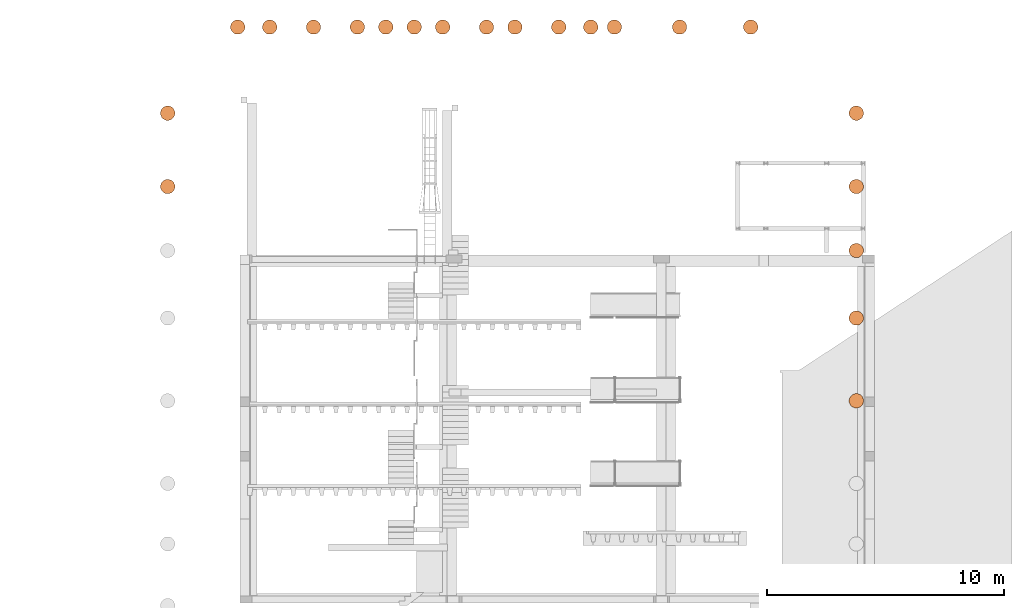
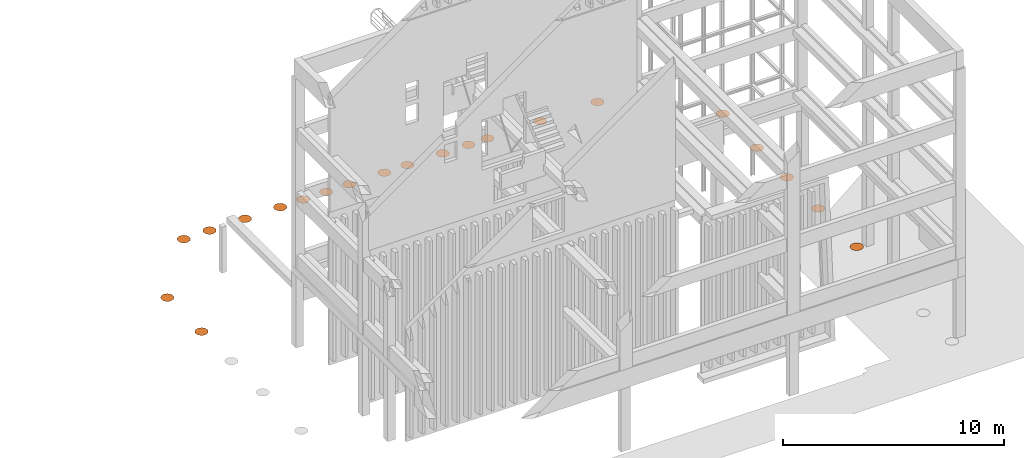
# One storey, part 15 of 15: 21 proxies.
"""IFC2X3 building model written with IfcOpenShell, lengths in metres."""

from ifc_helpers import new_model, entity, si_unit, converted_unit, derived_unit, money_unit, direction, origin_with_axes, place, context, subcontext, project, spatial, open_shell, surface_model, element, save


model = new_model("IFC2X3")

# Units and contexts
model_context = context("Model", 3, precision=1e-05, world=origin_with_axes(), true_north=direction((0.0, 1.0)))
body_context = subcontext(model_context, "Body", "Model", "MODEL_VIEW", scale=1.0)
ifc_project = project(units=[si_unit("LENGTHUNIT", "METRE"), si_unit("AREAUNIT", "SQUARE_METRE"), si_unit("VOLUMEUNIT", "CUBIC_METRE"), si_unit("ABSORBEDDOSEUNIT", "GRAY"), si_unit("AMOUNTOFSUBSTANCEUNIT", "MOLE"), si_unit("DOSEEQUIVALENTUNIT", "SIEVERT"), si_unit("ELECTRICCAPACITANCEUNIT", "FARAD"), si_unit("ELECTRICCHARGEUNIT", "COULOMB"), si_unit("ELECTRICCONDUCTANCEUNIT", "SIEMENS"), si_unit("ELECTRICCURRENTUNIT", "AMPERE"), si_unit("ELECTRICRESISTANCEUNIT", "OHM"), si_unit("ELECTRICVOLTAGEUNIT", "VOLT"), si_unit("ENERGYUNIT", "JOULE"), si_unit("FORCEUNIT", "NEWTON"), si_unit("FREQUENCYUNIT", "HERTZ"), si_unit("ILLUMINANCEUNIT", "LUX"), si_unit("INDUCTANCEUNIT", "HENRY"), si_unit("LUMINOUSFLUXUNIT", "LUMEN"), si_unit("LUMINOUSINTENSITYUNIT", "CANDELA"), si_unit("MAGNETICFLUXDENSITYUNIT", "TESLA"), si_unit("MAGNETICFLUXUNIT", "WEBER"), si_unit("MASSUNIT", "GRAM"), converted_unit("PLANEANGLEUNIT", "degree", entity("IfcReal", 0.0174532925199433), si_unit("PLANEANGLEUNIT", "RADIAN"), dimensions=[0, 0, 0, 0, 0, 0, 0]), si_unit("POWERUNIT", "WATT"), si_unit("PRESSUREUNIT", "PASCAL"), si_unit("RADIOACTIVITYUNIT", "BECQUEREL"), si_unit("SOLIDANGLEUNIT", "STERADIAN"), si_unit("THERMODYNAMICTEMPERATUREUNIT", "KELVIN"), si_unit("TIMEUNIT", "SECOND"), derived_unit("ACCELERATIONUNIT", [(si_unit("LENGTHUNIT", "METRE"), 1), (si_unit("TIMEUNIT", "SECOND"), -2)]), derived_unit("ANGULARVELOCITYUNIT", [(converted_unit("PLANEANGLEUNIT", "degree", entity("IfcReal", 0.0174532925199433), si_unit("PLANEANGLEUNIT", "RADIAN"), dimensions=[0, 0, 0, 0, 0, 0, 0]), 1), (si_unit("TIMEUNIT", "SECOND"), -1)]), derived_unit("CURVATUREUNIT", [(converted_unit("PLANEANGLEUNIT", "degree", entity("IfcReal", 0.0174532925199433), si_unit("PLANEANGLEUNIT", "RADIAN"), dimensions=[0, 0, 0, 0, 0, 0, 0]), 1), (si_unit("LENGTHUNIT", "METRE"), -1)]), derived_unit("DYNAMICVISCOSITYUNIT", [(si_unit("PRESSUREUNIT", "PASCAL"), 1), (si_unit("TIMEUNIT", "SECOND"), 1)]), derived_unit("HEATFLUXDENSITYUNIT", [(si_unit("POWERUNIT", "WATT"), 1), (si_unit("LENGTHUNIT", "METRE"), -2)]), derived_unit("HEATINGVALUEUNIT", [(si_unit("ENERGYUNIT", "JOULE"), 1), (si_unit("MASSUNIT", "GRAM"), -1)]), derived_unit("INTEGERCOUNTRATEUNIT", [(si_unit("TIMEUNIT", "SECOND"), -1)]), derived_unit("IONCONCENTRATIONUNIT", [(si_unit("MASSUNIT", "GRAM"), 1), (si_unit("VOLUMEUNIT", "CUBIC_METRE"), -1)]), derived_unit("ISOTHERMALMOISTURECAPACITYUNIT", [(si_unit("VOLUMEUNIT", "CUBIC_METRE"), 1), (si_unit("MASSUNIT", "GRAM"), -1)]), derived_unit("KINEMATICVISCOSITYUNIT", [(si_unit("AREAUNIT", "SQUARE_METRE"), 1), (si_unit("TIMEUNIT", "SECOND"), -1)]), derived_unit("LINEARFORCEUNIT", [(si_unit("FORCEUNIT", "NEWTON"), 1), (si_unit("LENGTHUNIT", "METRE"), -1)]), derived_unit("LINEARMOMENTUNIT", [(si_unit("FORCEUNIT", "NEWTON"), 1), (si_unit("LENGTHUNIT", "METRE"), -1)]), derived_unit("LINEARSTIFFNESSUNIT", [(si_unit("FORCEUNIT", "NEWTON"), 1), (si_unit("LENGTHUNIT", "METRE"), -1)]), derived_unit("LINEARVELOCITYUNIT", [(si_unit("LENGTHUNIT", "METRE"), 1), (si_unit("TIMEUNIT", "SECOND"), -1)]), derived_unit("LUMINOUSINTENSITYDISTRIBUTIONUNIT", [(si_unit("LUMINOUSINTENSITYUNIT", "CANDELA"), 1), (si_unit("LUMINOUSFLUXUNIT", "LUMEN"), -1)]), derived_unit("MASSDENSITYUNIT", [(si_unit("MASSUNIT", "GRAM"), 1), (si_unit("VOLUMEUNIT", "CUBIC_METRE"), -1)]), derived_unit("MASSFLOWRATEUNIT", [(si_unit("MASSUNIT", "GRAM"), 1), (si_unit("TIMEUNIT", "SECOND"), -1)]), derived_unit("MASSPERLENGTHUNIT", [(si_unit("MASSUNIT", "GRAM"), 1), (si_unit("LENGTHUNIT", "METRE"), -1)]), derived_unit("MODULUSOFELASTICITYUNIT", [(si_unit("FORCEUNIT", "NEWTON"), 1), (si_unit("AREAUNIT", "SQUARE_METRE"), -1)]), derived_unit("MODULUSOFLINEARSUBGRADEREACTIONUNIT", [(si_unit("FORCEUNIT", "NEWTON"), 1), (si_unit("LENGTHUNIT", "METRE"), -2)]), derived_unit("MODULUSOFROTATIONALSUBGRADEREACTIONUNIT", [(si_unit("FORCEUNIT", "NEWTON"), 1), (si_unit("LENGTHUNIT", "METRE"), 1)]), derived_unit("MODULUSOFSUBGRADEREACTIONUNIT", [(si_unit("FORCEUNIT", "NEWTON"), 1), (si_unit("VOLUMEUNIT", "CUBIC_METRE"), -1)]), derived_unit("MOISTUREDIFFUSIVITYUNIT", [(si_unit("VOLUMEUNIT", "CUBIC_METRE"), 1), (si_unit("TIMEUNIT", "SECOND"), -1)]), derived_unit("MOLECULARWEIGHTUNIT", [(si_unit("MASSUNIT", "GRAM"), 1), (si_unit("AMOUNTOFSUBSTANCEUNIT", "MOLE"), -1)]), derived_unit("PLANARFORCEUNIT", [(si_unit("FORCEUNIT", "NEWTON"), 1), (si_unit("LENGTHUNIT", "METRE"), -2)]), derived_unit("ROTATIONALFREQUENCYUNIT", [(si_unit("TIMEUNIT", "SECOND"), -1)]), derived_unit("ROTATIONALMASSUNIT", [(si_unit("MASSUNIT", "GRAM"), 1), (si_unit("LENGTHUNIT", "METRE"), 2)]), derived_unit("ROTATIONALSTIFFNESSUNIT", [(si_unit("FORCEUNIT", "NEWTON"), 1), (si_unit("LENGTHUNIT", "METRE"), 1), (converted_unit("PLANEANGLEUNIT", "degree", entity("IfcReal", 0.0174532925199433), si_unit("PLANEANGLEUNIT", "RADIAN"), dimensions=[0, 0, 0, 0, 0, 0, 0]), -1)]), derived_unit("SECTIONAREAINTEGRALUNIT", [(si_unit("LENGTHUNIT", "METRE"), 5)]), derived_unit("SECTIONMODULUSUNIT", [(si_unit("LENGTHUNIT", "METRE"), 3)]), derived_unit("SHEARMODULUSUNIT", [(si_unit("FORCEUNIT", "NEWTON"), 1), (si_unit("AREAUNIT", "SQUARE_METRE"), -1)]), derived_unit("SOUNDPOWERUNIT", [(si_unit("ENERGYUNIT", "JOULE"), 1), (si_unit("TIMEUNIT", "SECOND"), -1)]), derived_unit("SPECIFICHEATCAPACITYUNIT", [(si_unit("FORCEUNIT", "NEWTON"), 1), (si_unit("MASSUNIT", "GRAM"), -1), (si_unit("THERMODYNAMICTEMPERATUREUNIT", "KELVIN"), -1)]), derived_unit("TEMPERATUREGRADIENTUNIT", [(si_unit("THERMODYNAMICTEMPERATUREUNIT", "KELVIN"), 1), (si_unit("LENGTHUNIT", "METRE"), -1)]), derived_unit("THERMALADMITTANCEUNIT", [(si_unit("POWERUNIT", "WATT"), 1), (si_unit("AREAUNIT", "SQUARE_METRE"), -1), (si_unit("THERMODYNAMICTEMPERATUREUNIT", "KELVIN"), -1)]), derived_unit("THERMALCONDUCTANCEUNIT", [(si_unit("POWERUNIT", "WATT"), 1), (si_unit("LENGTHUNIT", "METRE"), -1), (si_unit("THERMODYNAMICTEMPERATUREUNIT", "KELVIN"), -1)]), derived_unit("THERMALEXPANSIONCOEFFICIENTUNIT", [(si_unit("THERMODYNAMICTEMPERATUREUNIT", "KELVIN"), -1)]), derived_unit("THERMALRESISTANCEUNIT", [(si_unit("AREAUNIT", "SQUARE_METRE"), 1), (si_unit("POWERUNIT", "WATT"), -1)]), derived_unit("THERMALTRANSMITTANCEUNIT", [(si_unit("POWERUNIT", "WATT"), 1), (si_unit("AREAUNIT", "SQUARE_METRE"), -1), (si_unit("THERMODYNAMICTEMPERATUREUNIT", "KELVIN"), -1)]), derived_unit("TORQUEUNIT", [(si_unit("FORCEUNIT", "NEWTON"), 1), (si_unit("LENGTHUNIT", "METRE"), 1)]), derived_unit("VAPORPERMEABILITYUNIT", [(si_unit("MASSUNIT", "GRAM"), 1), (si_unit("TIMEUNIT", "SECOND"), -1)]), derived_unit("VOLUMETRICFLOWRATEUNIT", [(si_unit("VOLUMEUNIT", "CUBIC_METRE"), 1), (si_unit("TIMEUNIT", "SECOND"), -1)]), derived_unit("WARPINGCONSTANTUNIT", [(si_unit("LENGTHUNIT", "METRE"), 6)]), derived_unit("WARPINGMOMENTUNIT", [(si_unit("FORCEUNIT", "NEWTON"), 1), (si_unit("LENGTHUNIT", "METRE"), 2)]), money_unit("GBP")], contexts=[model_context])

# Site, building, storey
site_placement = place(None, origin_with_axes())
site = spatial("IfcSite", under=ifc_project, at=site_placement, Name="Site", CompositionType="ELEMENT")
building_placement = place(site_placement, origin_with_axes())
building = spatial("IfcBuilding", under=site, at=building_placement, Name="Building01", CompositionType="ELEMENT")
storey_placement = place(building_placement, origin_with_axes())
storey = spatial("IfcBuildingStorey", under=building, at=storey_placement, Name="GF", CompositionType="ELEMENT", Elevation=0.0)

# Proxies
placement = place(storey_placement, origin_with_axes())
element("IfcBuildingElementProxy", 1, at=placement, inside=storey, context=body_context, shape_type="SurfaceModel", body=[
    surface_model("IfcShellBasedSurfaceModel", [(0.3, 24.471903, 0.0), (0.254328, 24.582166, 0.0), (0.169936, 24.666557, 0.0), (0.059674, 24.71223, 0.0), (-0.059674, 24.71223, 0.0), (-0.169936, 24.666557, 0.0), (-0.254328, 24.582166, 0.0), (-0.3, 24.471903, 0.0), (-0.3, 24.352556, 0.0), (-0.254328, 24.242293, 0.0), (-0.169936, 24.157902, 0.0), (-0.059674, 24.11223, 0.0), (0.059674, 24.11223, 0.0), (0.169936, 24.157902, 0.0), (0.254328, 24.242293, 0.0), (0.3, 24.352556, 0.0)], [open_shell([[[0, 1, 2, 3, 4, 5, 6, 7, 8, 9, 10, 11, 12, 13, 14, 15]]])]),
])
element("IfcBuildingElementProxy", 2, at=placement, inside=storey, context=body_context, shape_type="SurfaceModel", body=[
    surface_model("IfcShellBasedSurfaceModel", [(1.65, 24.471903, 0.0), (1.604328, 24.582166, 0.0), (1.519936, 24.666557, 0.0), (1.409674, 24.71223, 0.0), (1.290326, 24.71223, 0.0), (1.180064, 24.666557, 0.0), (1.095672, 24.582166, 0.0), (1.05, 24.471903, 0.0), (1.05, 24.352556, 0.0), (1.095672, 24.242293, 0.0), (1.180064, 24.157902, 0.0), (1.290326, 24.11223, 0.0), (1.409674, 24.11223, 0.0), (1.519936, 24.157902, 0.0), (1.604328, 24.242293, 0.0), (1.65, 24.352556, 0.0)], [open_shell([[[0, 1, 2, 3, 4, 5, 6, 7, 8, 9, 10, 11, 12, 13, 14, 15]]])]),
])
element("IfcBuildingElementProxy", 3, at=placement, inside=storey, context=body_context, shape_type="SurfaceModel", body=[
    surface_model("IfcShellBasedSurfaceModel", [(3.5, 24.471903, 0.0), (3.454328, 24.582166, 0.0), (3.369936, 24.666557, 0.0), (3.259674, 24.71223, 0.0), (3.140326, 24.71223, 0.0), (3.030064, 24.666557, 0.0), (2.945672, 24.582166, 0.0), (2.9, 24.471903, 0.0), (2.9, 24.352556, 0.0), (2.945672, 24.242293, 0.0), (3.030064, 24.157902, 0.0), (3.140326, 24.11223, 0.0), (3.259674, 24.11223, 0.0), (3.369936, 24.157902, 0.0), (3.454328, 24.242293, 0.0), (3.5, 24.352556, 0.0)], [open_shell([[[0, 1, 2, 3, 4, 5, 6, 7, 8, 9, 10, 11, 12, 13, 14, 15]]])]),
])
element("IfcBuildingElementProxy", 4, at=placement, inside=storey, context=body_context, shape_type="SurfaceModel", body=[
    surface_model("IfcShellBasedSurfaceModel", [(5.35, 24.471903, 0.0), (5.304328, 24.582166, 0.0), (5.219936, 24.666557, 0.0), (5.109674, 24.71223, 0.0), (4.990326, 24.71223, 0.0), (4.880064, 24.666557, 0.0), (4.795672, 24.582166, 0.0), (4.75, 24.471903, 0.0), (4.75, 24.352556, 0.0), (4.795672, 24.242293, 0.0), (4.880064, 24.157902, 0.0), (4.990326, 24.11223, 0.0), (5.109674, 24.11223, 0.0), (5.219936, 24.157902, 0.0), (5.304328, 24.242293, 0.0), (5.35, 24.352556, 0.0)], [open_shell([[[0, 1, 2, 3, 4, 5, 6, 7, 8, 9, 10, 11, 12, 13, 14, 15]]])]),
])
element("IfcBuildingElementProxy", 5, at=placement, inside=storey, context=body_context, shape_type="SurfaceModel", body=[
    surface_model("IfcShellBasedSurfaceModel", [(6.55, 24.471903, 0.0), (6.504328, 24.582166, 0.0), (6.419936, 24.666557, 0.0), (6.309674, 24.71223, 0.0), (6.190326, 24.71223, 0.0), (6.080064, 24.666557, 0.0), (5.995672, 24.582166, 0.0), (5.95, 24.471903, 0.0), (5.95, 24.352556, 0.0), (5.995672, 24.242293, 0.0), (6.080064, 24.157902, 0.0), (6.190326, 24.11223, 0.0), (6.309674, 24.11223, 0.0), (6.419936, 24.157902, 0.0), (6.504328, 24.242293, 0.0), (6.55, 24.352556, 0.0)], [open_shell([[[0, 1, 2, 3, 4, 5, 6, 7, 8, 9, 10, 11, 12, 13, 14, 15]]])]),
])
element("IfcBuildingElementProxy", 6, at=placement, inside=storey, context=body_context, shape_type="SurfaceModel", body=[
    surface_model("IfcShellBasedSurfaceModel", [(7.75, 24.471903, 0.0), (7.704328, 24.582166, 0.0), (7.619936, 24.666557, 0.0), (7.509674, 24.71223, 0.0), (7.390326, 24.71223, 0.0), (7.280064, 24.666557, 0.0), (7.195672, 24.582166, 0.0), (7.15, 24.471903, 0.0), (7.15, 24.352556, 0.0), (7.195672, 24.242293, 0.0), (7.280064, 24.157902, 0.0), (7.390326, 24.11223, 0.0), (7.509674, 24.11223, 0.0), (7.619936, 24.157902, 0.0), (7.704328, 24.242293, 0.0), (7.75, 24.352556, 0.0)], [open_shell([[[0, 1, 2, 3, 4, 5, 6, 7, 8, 9, 10, 11, 12, 13, 14, 15]]])]),
])
element("IfcBuildingElementProxy", 7, at=placement, inside=storey, context=body_context, shape_type="SurfaceModel", body=[
    surface_model("IfcShellBasedSurfaceModel", [(8.95, 24.471903, 0.0), (8.904328, 24.582166, 0.0), (8.819936, 24.666557, 0.0), (8.709674, 24.71223, 0.0), (8.590326, 24.71223, 0.0), (8.480064, 24.666557, 0.0), (8.395672, 24.582166, 0.0), (8.35, 24.471903, 0.0), (8.35, 24.352556, 0.0), (8.395672, 24.242293, 0.0), (8.480064, 24.157902, 0.0), (8.590326, 24.11223, 0.0), (8.709674, 24.11223, 0.0), (8.819936, 24.157902, 0.0), (8.904328, 24.242293, 0.0), (8.95, 24.352556, 0.0)], [open_shell([[[0, 1, 2, 3, 4, 5, 6, 7, 8, 9, 10, 11, 12, 13, 14, 15]]])]),
])
element("IfcBuildingElementProxy", 8, at=placement, inside=storey, context=body_context, shape_type="SurfaceModel", body=[
    surface_model("IfcShellBasedSurfaceModel", [(10.8, 24.471903, 0.0), (10.754328, 24.582166, 0.0), (10.669936, 24.666557, 0.0), (10.559674, 24.71223, 0.0), (10.440326, 24.71223, 0.0), (10.330064, 24.666557, 0.0), (10.245672, 24.582166, 0.0), (10.2, 24.471903, 0.0), (10.2, 24.352556, 0.0), (10.245672, 24.242293, 0.0), (10.330064, 24.157902, 0.0), (10.440326, 24.11223, 0.0), (10.559674, 24.11223, 0.0), (10.669936, 24.157902, 0.0), (10.754328, 24.242293, 0.0), (10.8, 24.352556, 0.0)], [open_shell([[[0, 1, 2, 3, 4, 5, 6, 7, 8, 9, 10, 11, 12, 13, 14, 15]]])]),
])
element("IfcBuildingElementProxy", 9, at=placement, inside=storey, context=body_context, shape_type="SurfaceModel", body=[
    surface_model("IfcShellBasedSurfaceModel", [(12.0, 24.471903, 0.0), (11.954328, 24.582166, 0.0), (11.869936, 24.666557, 0.0), (11.759674, 24.71223, 0.0), (11.640326, 24.71223, 0.0), (11.530064, 24.666557, 0.0), (11.445672, 24.582166, 0.0), (11.4, 24.471903, 0.0), (11.4, 24.352556, 0.0), (11.445672, 24.242293, 0.0), (11.530064, 24.157902, 0.0), (11.640326, 24.11223, 0.0), (11.759674, 24.11223, 0.0), (11.869936, 24.157902, 0.0), (11.954328, 24.242293, 0.0), (12.0, 24.352556, 0.0)], [open_shell([[[0, 1, 2, 3, 4, 5, 6, 7, 8, 9, 10, 11, 12, 13, 14, 15]]])]),
])
element("IfcBuildingElementProxy", 10, at=placement, inside=storey, context=body_context, shape_type="SurfaceModel", body=[
    surface_model("IfcShellBasedSurfaceModel", [(13.85, 24.471903, 0.0), (13.804328, 24.582166, 0.0), (13.719936, 24.666557, 0.0), (13.609674, 24.71223, 0.0), (13.490326, 24.71223, 0.0), (13.380064, 24.666557, 0.0), (13.295672, 24.582166, 0.0), (13.25, 24.471903, 0.0), (13.25, 24.352556, 0.0), (13.295672, 24.242293, 0.0), (13.380064, 24.157902, 0.0), (13.490326, 24.11223, 0.0), (13.609674, 24.11223, 0.0), (13.719936, 24.157902, 0.0), (13.804328, 24.242293, 0.0), (13.85, 24.352556, 0.0)], [open_shell([[[0, 1, 2, 3, 4, 5, 6, 7, 8, 9, 10, 11, 12, 13, 14, 15]]])]),
])
element("IfcBuildingElementProxy", 11, at=placement, inside=storey, context=body_context, shape_type="SurfaceModel", body=[
    surface_model("IfcShellBasedSurfaceModel", [(15.2, 24.471903, 0.0), (15.154328, 24.582166, 0.0), (15.069936, 24.666557, 0.0), (14.959674, 24.71223, 0.0), (14.840326, 24.71223, 0.0), (14.730064, 24.666557, 0.0), (14.645672, 24.582166, 0.0), (14.6, 24.471903, 0.0), (14.6, 24.352556, 0.0), (14.645672, 24.242293, 0.0), (14.730064, 24.157902, 0.0), (14.840326, 24.11223, 0.0), (14.959674, 24.11223, 0.0), (15.069936, 24.157902, 0.0), (15.154328, 24.242293, 0.0), (15.2, 24.352556, 0.0)], [open_shell([[[0, 1, 2, 3, 4, 5, 6, 7, 8, 9, 10, 11, 12, 13, 14, 15]]])]),
])
element("IfcBuildingElementProxy", 12, at=placement, inside=storey, context=body_context, shape_type="SurfaceModel", body=[
    surface_model("IfcShellBasedSurfaceModel", [(16.2, 24.471903, 0.0), (16.154328, 24.582166, 0.0), (16.069936, 24.666557, 0.0), (15.959674, 24.71223, 0.0), (15.840326, 24.71223, 0.0), (15.730064, 24.666557, 0.0), (15.645672, 24.582166, 0.0), (15.6, 24.471903, 0.0), (15.6, 24.352556, 0.0), (15.645672, 24.242293, 0.0), (15.730064, 24.157902, 0.0), (15.840326, 24.11223, 0.0), (15.959674, 24.11223, 0.0), (16.069936, 24.157902, 0.0), (16.154328, 24.242293, 0.0), (16.2, 24.352556, 0.0)], [open_shell([[[0, 1, 2, 3, 4, 5, 6, 7, 8, 9, 10, 11, 12, 13, 14, 15]]])]),
])
element("IfcBuildingElementProxy", 13, at=placement, inside=storey, context=body_context, shape_type="SurfaceModel", body=[
    surface_model("IfcShellBasedSurfaceModel", [(18.95, 24.471903, 0.0), (18.904328, 24.582166, 0.0), (18.819936, 24.666557, 0.0), (18.709674, 24.71223, 0.0), (18.590326, 24.71223, 0.0), (18.480064, 24.666557, 0.0), (18.395672, 24.582166, 0.0), (18.35, 24.471903, 0.0), (18.35, 24.352556, 0.0), (18.395672, 24.242293, 0.0), (18.480064, 24.157902, 0.0), (18.590326, 24.11223, 0.0), (18.709674, 24.11223, 0.0), (18.819936, 24.157902, 0.0), (18.904328, 24.242293, 0.0), (18.95, 24.352556, 0.0)], [open_shell([[[0, 1, 2, 3, 4, 5, 6, 7, 8, 9, 10, 11, 12, 13, 14, 15]]])]),
])
element("IfcBuildingElementProxy", 14, at=placement, inside=storey, context=body_context, shape_type="SurfaceModel", body=[
    surface_model("IfcShellBasedSurfaceModel", [(21.95, 24.471903, 0.0), (21.904328, 24.582166, 0.0), (21.819936, 24.666557, 0.0), (21.709674, 24.71223, 0.0), (21.590326, 24.71223, 0.0), (21.480064, 24.666557, 0.0), (21.395672, 24.582166, 0.0), (21.35, 24.471903, 0.0), (21.35, 24.352556, 0.0), (21.395672, 24.242293, 0.0), (21.480064, 24.157902, 0.0), (21.590326, 24.11223, 0.0), (21.709674, 24.11223, 0.0), (21.819936, 24.157902, 0.0), (21.904328, 24.242293, 0.0), (21.95, 24.352556, 0.0)], [open_shell([[[0, 1, 2, 3, 4, 5, 6, 7, 8, 9, 10, 11, 12, 13, 14, 15]]])]),
])
element("IfcBuildingElementProxy", 15, at=placement, inside=storey, context=body_context, shape_type="SurfaceModel", body=[
    surface_model("IfcShellBasedSurfaceModel", [(26.408929, 8.699674, 0.0), (26.363256, 8.809936, 0.0), (26.278865, 8.894328, 0.0), (26.168602, 8.94, 0.0), (26.049255, 8.94, 0.0), (25.938992, 8.894328, 0.0), (25.854601, 8.809936, 0.0), (25.808929, 8.699674, 0.0), (25.808929, 8.580326, 0.0), (25.854601, 8.470064, 0.0), (25.938992, 8.385672, 0.0), (26.049255, 8.34, 0.0), (26.168602, 8.34, 0.0), (26.278865, 8.385672, 0.0), (26.363256, 8.470064, 0.0), (26.408929, 8.580326, 0.0)], [open_shell([[[0, 1, 2, 3, 4, 5, 6, 7, 8, 9, 10, 11, 12, 13, 14, 15]]])]),
])
element("IfcBuildingElementProxy", 16, at=placement, inside=storey, context=body_context, shape_type="SurfaceModel", body=[
    surface_model("IfcShellBasedSurfaceModel", [(26.408929, 12.189674, 0.0), (26.363256, 12.299936, 0.0), (26.278865, 12.384328, 0.0), (26.168602, 12.43, 0.0), (26.049255, 12.43, 0.0), (25.938992, 12.384328, 0.0), (25.854601, 12.299936, 0.0), (25.808929, 12.189674, 0.0), (25.808929, 12.070326, 0.0), (25.854601, 11.960064, 0.0), (25.938992, 11.875672, 0.0), (26.049255, 11.83, 0.0), (26.168602, 11.83, 0.0), (26.278865, 11.875672, 0.0), (26.363256, 11.960064, 0.0), (26.408929, 12.070326, 0.0)], [open_shell([[[0, 1, 2, 3, 4, 5, 6, 7, 8, 9, 10, 11, 12, 13, 14, 15]]])]),
])
element("IfcBuildingElementProxy", 17, at=placement, inside=storey, context=body_context, shape_type="SurfaceModel", body=[
    surface_model("IfcShellBasedSurfaceModel", [(26.408929, 15.039674, 0.0), (26.363256, 15.149936, 0.0), (26.278865, 15.234328, 0.0), (26.168602, 15.28, 0.0), (26.049255, 15.28, 0.0), (25.938992, 15.234328, 0.0), (25.854601, 15.149936, 0.0), (25.808929, 15.039674, 0.0), (25.808929, 14.920326, 0.0), (25.854601, 14.810064, 0.0), (25.938992, 14.725672, 0.0), (26.049255, 14.68, 0.0), (26.168602, 14.68, 0.0), (26.278865, 14.725672, 0.0), (26.363256, 14.810064, 0.0), (26.408929, 14.920326, 0.0)], [open_shell([[[0, 1, 2, 3, 4, 5, 6, 7, 8, 9, 10, 11, 12, 13, 14, 15]]])]),
])
element("IfcBuildingElementProxy", 18, at=placement, inside=storey, context=body_context, shape_type="SurfaceModel", body=[
    surface_model("IfcShellBasedSurfaceModel", [(-2.655321, 17.739674, 0.0), (-2.700993, 17.849936, 0.0), (-2.785384, 17.934328, 0.0), (-2.895647, 17.98, 0.0), (-3.014994, 17.98, 0.0), (-3.125257, 17.934328, 0.0), (-3.209648, 17.849936, 0.0), (-3.255321, 17.739674, 0.0), (-3.255321, 17.620326, 0.0), (-3.209648, 17.510064, 0.0), (-3.125257, 17.425672, 0.0), (-3.014994, 17.38, 0.0), (-2.895647, 17.38, 0.0), (-2.785384, 17.425672, 0.0), (-2.700993, 17.510064, 0.0), (-2.655321, 17.620326, 0.0)], [open_shell([[[0, 1, 2, 3, 4, 5, 6, 7, 8, 9, 10, 11, 12, 13, 14, 15]]])]),
])
element("IfcBuildingElementProxy", 19, at=placement, inside=storey, context=body_context, shape_type="SurfaceModel", body=[
    surface_model("IfcShellBasedSurfaceModel", [(26.408929, 17.739674, 0.0), (26.363256, 17.849936, 0.0), (26.278865, 17.934328, 0.0), (26.168602, 17.98, 0.0), (26.049255, 17.98, 0.0), (25.938992, 17.934328, 0.0), (25.854601, 17.849936, 0.0), (25.808929, 17.739674, 0.0), (25.808929, 17.620326, 0.0), (25.854601, 17.510064, 0.0), (25.938992, 17.425672, 0.0), (26.049255, 17.38, 0.0), (26.168602, 17.38, 0.0), (26.278865, 17.425672, 0.0), (26.363256, 17.510064, 0.0), (26.408929, 17.620326, 0.0)], [open_shell([[[0, 1, 2, 3, 4, 5, 6, 7, 8, 9, 10, 11, 12, 13, 14, 15]]])]),
])
element("IfcBuildingElementProxy", 20, at=placement, inside=storey, context=body_context, shape_type="SurfaceModel", body=[
    surface_model("IfcShellBasedSurfaceModel", [(-2.655321, 20.839674, 0.0), (-2.700993, 20.949936, 0.0), (-2.785384, 21.034328, 0.0), (-2.895647, 21.08, 0.0), (-3.014994, 21.08, 0.0), (-3.125257, 21.034328, 0.0), (-3.209648, 20.949936, 0.0), (-3.255321, 20.839674, 0.0), (-3.255321, 20.720326, 0.0), (-3.209648, 20.610064, 0.0), (-3.125257, 20.525672, 0.0), (-3.014994, 20.48, 0.0), (-2.895647, 20.48, 0.0), (-2.785384, 20.525672, 0.0), (-2.700993, 20.610064, 0.0), (-2.655321, 20.720326, 0.0)], [open_shell([[[0, 1, 2, 3, 4, 5, 6, 7, 8, 9, 10, 11, 12, 13, 14, 15]]])]),
])
element("IfcBuildingElementProxy", 21, at=placement, inside=storey, context=body_context, shape_type="SurfaceModel", body=[
    surface_model("IfcShellBasedSurfaceModel", [(26.408929, 20.839674, 0.0), (26.363256, 20.949936, 0.0), (26.278865, 21.034328, 0.0), (26.168602, 21.08, 0.0), (26.049255, 21.08, 0.0), (25.938992, 21.034328, 0.0), (25.854601, 20.949936, 0.0), (25.808929, 20.839674, 0.0), (25.808929, 20.720326, 0.0), (25.854601, 20.610064, 0.0), (25.938992, 20.525672, 0.0), (26.049255, 20.48, 0.0), (26.168602, 20.48, 0.0), (26.278865, 20.525672, 0.0), (26.363256, 20.610064, 0.0), (26.408929, 20.720326, 0.0)], [open_shell([[[0, 1, 2, 3, 4, 5, 6, 7, 8, 9, 10, 11, 12, 13, 14, 15]]])]),
])

save(model, "model.ifc")
